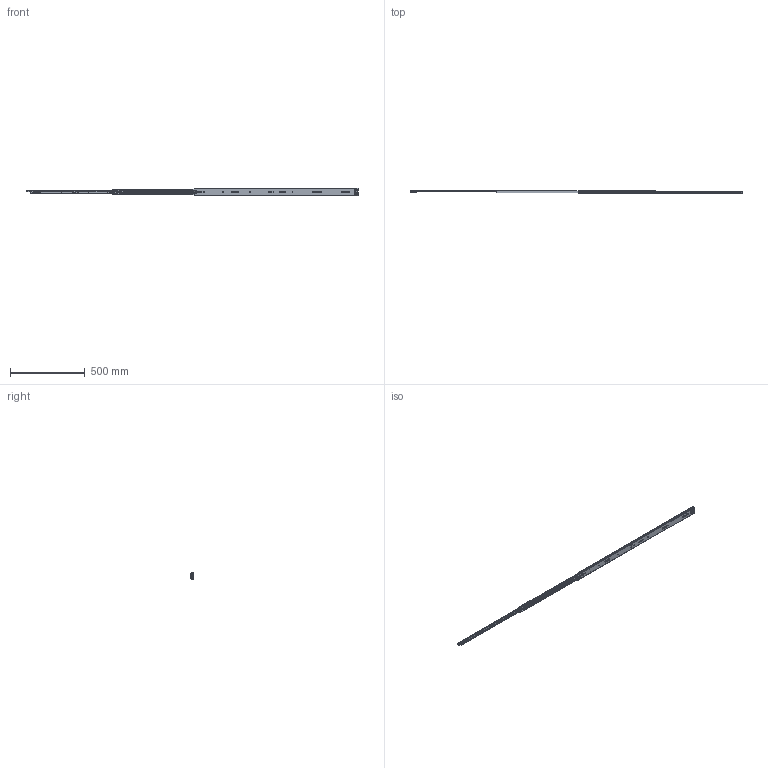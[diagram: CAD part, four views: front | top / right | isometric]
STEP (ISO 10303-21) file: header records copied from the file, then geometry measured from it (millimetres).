
FILE_DESCRIPTION((''),'2;1');
FILE_NAME('1053-3S-44YOU_ASM','2023-04-12T',('jishu015'),(''),'PRO/ENGINEER BY PARAMETRIC TECHNOLOGY CORPORATION, 2010280','PRO/ENGINEER BY PARAMETRIC TECHNOLOGY CORPORATION, 2010280','');
FILE_SCHEMA(('CONFIG_CONTROL_DESIGN'));
Products named in the file (20): 1053-02-18WAIKE________________; 1053WEIJIAO________________; 1053-3S-24WAIKE_________________ASM; 1053ZHUTIAO-175________________; 53-5-6GANZHU________________; 1053ZHUTIAO-175MM21__ASM; 1053-02-18ZHONGGUI1__; ZHONGGUIPEIJIAN______________; ZHONGGUISUOKOU______________; 1053-02-18ZHONGGUI1___ASM; 1053XIAOZHUJIA-14GE1___; 1053XIAOZHUJIA-14GE1____ASM; 1053-02-18NEIGU22; DAOPIAN____________; PIAN____________; 1053-3SBANJI123___________; JIAO-11___________; 50XINSUOKOU11__________; 1053-02-18NEIGUI11_ASM; 1053-3S-44YOU_ASM
Assembly tree (119 placements, depth 3):
  1053-3S-44YOU_ASM
    1053-3S-24WAIKE_________________ASM
      1053-02-18WAIKE________________
      1053WEIJIAO________________
    1053ZHUTIAO-175MM21__ASM  x2
      1053ZHUTIAO-175________________
      53-5-6GANZHU________________
    1053-02-18ZHONGGUI1___ASM
      1053-02-18ZHONGGUI1__
      ZHONGGUIPEIJIAN______________
      ZHONGGUISUOKOU______________
    1053XIAOZHUJIA-14GE1____ASM
      1053XIAOZHUJIA-14GE1___
      53-5-6GANZHU________________  x80
    1053-02-18NEIGUI11_ASM
      1053-02-18NEIGU22
      DAOPIAN____________
      PIAN____________
      1053-3SBANJI123___________
      JIAO-11___________
      50XINSUOKOU11__________
Bounding box: 2226.92 x 18.7 x 53 mm (x, y, z)
Volume: 422148.9 mm3; surface area: 489545.8 mm2
Topology: 135 solids, 135 shells, 3102 faces, 9016 edges, 5601 vertices
Faces by surface type: cylinder 1381, plane 1227, sphere 248, bspline 121, cone 86, extrusion 23, torus 16
Entity records: 97847 total; most frequent: CARTESIAN_POINT 23243, ORIENTED_EDGE 15810, DIRECTION 15388, EDGE_CURVE 7905, AXIS2_PLACEMENT_3D 5316, VERTEX_POINT 5107, VECTOR 4756, LINE 4733
